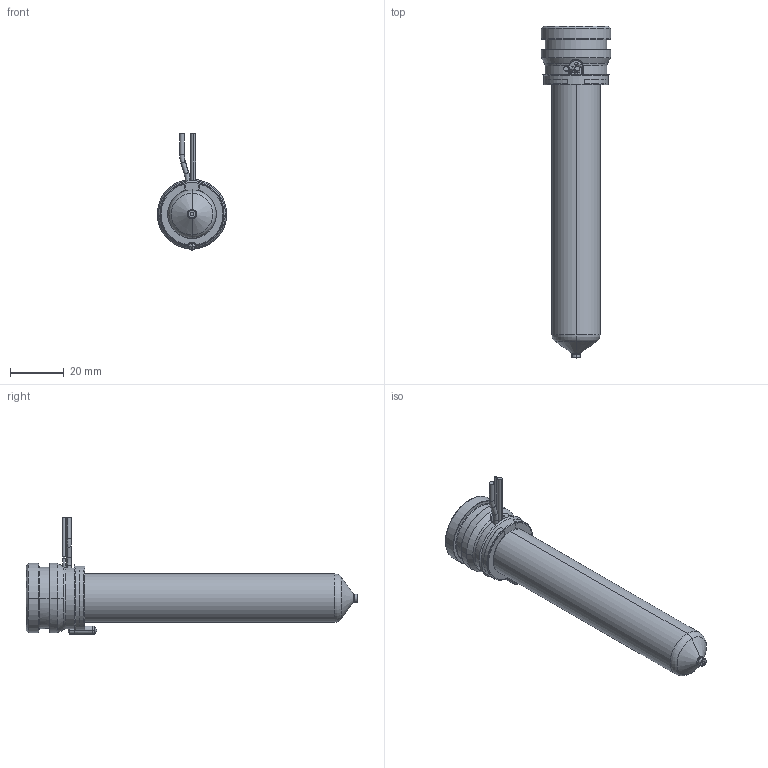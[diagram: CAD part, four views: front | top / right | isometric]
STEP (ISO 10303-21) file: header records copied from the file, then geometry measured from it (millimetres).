
FILE_DESCRIPTION((''),'2;1');
FILE_NAME('MPN-08-24-VP3-106-A','2026-02-05T12:01:44',('UPTIO'),('Thermoplay S.p.A.'),'CREO PARAMETRIC BY PTC INC, 2023494','CREO PARAMETRIC BY PTC INC, 2023494','');
FILE_SCHEMA(('CONFIG_CONTROL_DESIGN','SHAPE_APPEARANCE_LAYERS_GROUPS'));
Length unit declared in the file: millimetre
Products named in the file (1): MPN-08-24-VP3-106-A
Bounding box: 26 x 124.1 x 43.5 mm (x, y, z)
Volume: 24398.2 mm3; surface area: 31016.4 mm2
Topology: 2 solids, 3 shells, 587 faces, 1560 edges, 971 vertices
Faces by surface type: cylinder 184, plane 143, bspline 108, torus 70, cone 68, sphere 8, extrusion 6
Entity records: 31003 total; most frequent: CARTESIAN_POINT 13769, ORIENTED_EDGE 3104, DIRECTION 2714, EDGE_CURVE 1552, AXIS2_PLACEMENT_3D 1061, VERTEX_POINT 971, EDGE_LOOP 615, VECTOR 592
